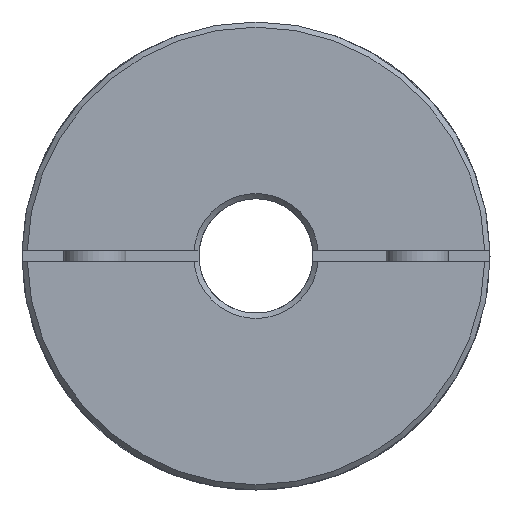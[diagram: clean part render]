
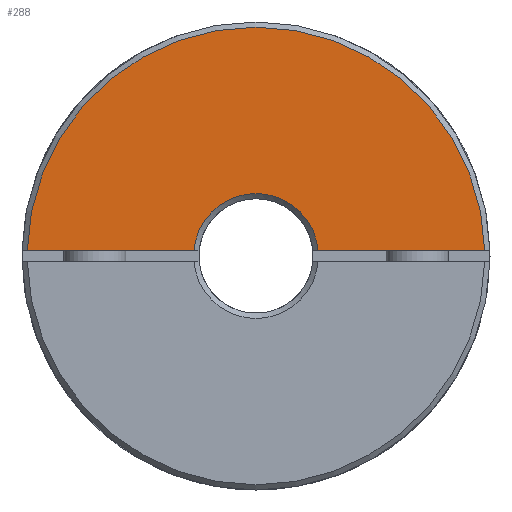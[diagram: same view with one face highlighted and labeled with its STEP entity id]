
A CAD part, left-side view. The second image highlights one B-rep face of the part: STEP entity #288.
In plain terms, the highlighted planar face has unit normal (-1, 0, 0) as drawn and (1, 0, 0) by its records, which use the part's own axes.
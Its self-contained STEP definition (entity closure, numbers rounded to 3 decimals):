
#288 = ADVANCED_FACE( '', ( #587 ), #588, .T. );
#587 = FACE_OUTER_BOUND( '', #998, .T. );
#588 = PLANE( '', #999 );
#998 = EDGE_LOOP( '', ( #1455, #1456, #1457, #1458 ) );
#999 = AXIS2_PLACEMENT_3D( '', #1459, #1460, #1461 );
#1455 = ORIENTED_EDGE( '', *, *, #2097, .F. );
#1456 = ORIENTED_EDGE( '', *, *, #2098, .T. );
#1457 = ORIENTED_EDGE( '', *, *, #2099, .F. );
#1458 = ORIENTED_EDGE( '', *, *, #2047, .T. );
#1459 = CARTESIAN_POINT( '', ( 29., 0., 45. ) );
#1460 = DIRECTION( '', ( 1., 0., 0. ) );
#1461 = DIRECTION( '', ( 0., 0., -1. ) );
#2047 = EDGE_CURVE( '', #2312, #2316, #2318, .F. );
#2097 = EDGE_CURVE( '', #2402, #2316, #2403, .T. );
#2098 = EDGE_CURVE( '', #2402, #2404, #2405, .T. );
#2099 = EDGE_CURVE( '', #2312, #2404, #2406, .T. );
#2312 = VERTEX_POINT( '', #2681 );
#2316 = VERTEX_POINT( '', #2688 );
#2318 = CIRCLE( '', #2693, 12. );
#2402 = VERTEX_POINT( '', #3062 );
#2403 = LINE( '', #3063, #3064 );
#2404 = VERTEX_POINT( '', #3065 );
#2405 = CIRCLE( '', #3066, 44. );
#2406 = LINE( '', #3067, #3068 );
#2681 = CARTESIAN_POINT( '', ( 29., -11.958, 1. ) );
#2688 = CARTESIAN_POINT( '', ( 29., 11.958, 1. ) );
#2693 = AXIS2_PLACEMENT_3D( '', #3446, #3447, #3448 );
#3062 = CARTESIAN_POINT( '', ( 29., 43.989, 1. ) );
#3063 = CARTESIAN_POINT( '', ( 29., 0., 1. ) );
#3064 = VECTOR( '', #3523, 1000. );
#3065 = CARTESIAN_POINT( '', ( 29., -43.989, 1. ) );
#3066 = AXIS2_PLACEMENT_3D( '', #3524, #3525, #3526 );
#3067 = CARTESIAN_POINT( '', ( 29., 0., 1. ) );
#3068 = VECTOR( '', #3527, 1000. );
#3446 = CARTESIAN_POINT( '', ( 29., 0., 0. ) );
#3447 = DIRECTION( '', ( 1., 0., 0. ) );
#3448 = DIRECTION( '', ( 0., 0., -1. ) );
#3523 = DIRECTION( '', ( 0., -1., 0. ) );
#3524 = CARTESIAN_POINT( '', ( 29., 0., 0. ) );
#3525 = DIRECTION( '', ( 1., 0., 0. ) );
#3526 = DIRECTION( '', ( 0., 0., -1. ) );
#3527 = DIRECTION( '', ( 0., -1., 0. ) );
